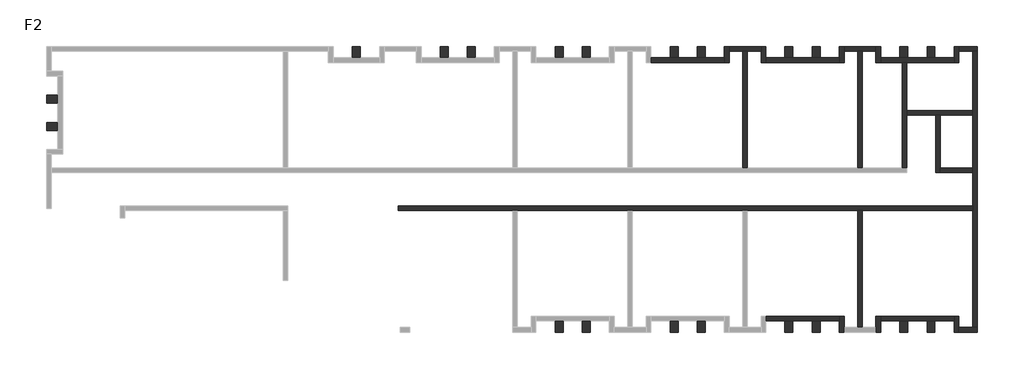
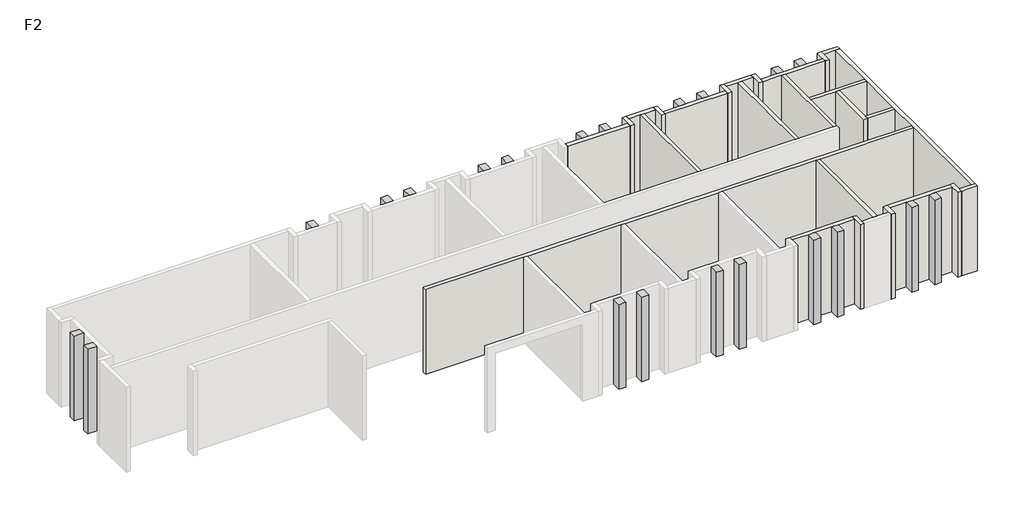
# One storey, part 2 of 2: 27 walls, 21 columns.
"""IFC4 building model written with IfcOpenShell, lengths in millimetres."""

from ifc_helpers import new_model, si_unit, frame, origin, place, context, project, spatial, polyline, outline, extrude, faceted_brep, element, save

model = new_model("IFC4")

# Units and contexts
model_context = context("Model", 3, world=origin())
ifc_project = project(units=[si_unit("LENGTHUNIT", "METRE", prefix="MILLI")], contexts=[model_context])

# Site, building, storey
site = spatial("IfcSite", under=ifc_project)
building = spatial("IfcBuilding", under=site)
storey = spatial("IfcBuildingStorey", under=building, Name="F2", Elevation=3600.0)

# Columns
placement = place(None, origin())
element("IfcColumn", 1, ObjectType="矩形建筑柱 : 500 x 1000 mm", at=placement, inside=storey, context=model_context, shape_type="SweptSolid", body=[
    extrude(outline(polyline([(-38741.7970835, -14069.0484842), (-38741.7970835, -13569.0484842), (-38041.7970835, -13569.0484842), (-38041.7970835, -14069.0484842), (-38741.7970835, -14069.0484842)])), frame((0.0, 0.0, 3600.0), z_axis=(0.0, 0.0, 1.0), x_axis=(1.0, 0.0, 0.0)), (0.0, 0.0, 1.0), 6600.0),
])
element("IfcColumn", 2, ObjectType="矩形建筑柱 : 500 x 1000 mm", at=placement, inside=storey, context=model_context, shape_type="SweptSolid", body=[
    extrude(outline(polyline([(-38741.7970835, -15769.0484842), (-38741.7970835, -15269.0484842), (-38041.7970835, -15269.0484842), (-38041.7970835, -15769.0484842), (-38741.7970835, -15769.0484842)])), frame((0.0, 0.0, 3600.0), z_axis=(0.0, 0.0, 1.0), x_axis=(1.0, 0.0, 0.0)), (0.0, 0.0, 1.0), 6600.0),
])
element("IfcColumn", 3, ObjectType="矩形建筑柱 : 500 x 1000 mm", at=placement, inside=storey, context=model_context, shape_type="SweptSolid", body=[
    extrude(outline(polyline([(14718.2029165, -10509.0484842), (15218.2029165, -10509.0484842), (15218.2029165, -11209.0484842), (14718.2029165, -11209.0484842), (14718.2029165, -10509.0484842)])), frame((0.0, 0.0, 3600.0), z_axis=(0.0, 0.0, 1.0), x_axis=(1.0, 0.0, 0.0)), (0.0, 0.0, 1.0), 6600.0),
])
element("IfcColumn", 4, ObjectType="矩形建筑柱 : 500 x 1000 mm", at=placement, inside=storey, context=model_context, shape_type="SweptSolid", body=[
    extrude(outline(polyline([(16418.2029165, -10509.0484842), (16918.2029165, -10509.0484842), (16918.2029165, -11209.0484842), (16418.2029165, -11209.0484842), (16418.2029165, -10509.0484842)])), frame((0.0, 0.0, 3600.0), z_axis=(0.0, 0.0, 1.0), x_axis=(1.0, 0.0, 0.0)), (0.0, 0.0, 1.0), 6600.0),
])
element("IfcColumn", 5, ObjectType="矩形建筑柱 : 500 x 1000 mm", at=placement, inside=storey, context=model_context, shape_type="SweptSolid", body=[
    extrude(outline(polyline([(7518.2029165, -10509.0484842), (8018.2029165, -10509.0484842), (8018.2029165, -11209.0484842), (7518.2029165, -11209.0484842), (7518.2029165, -10509.0484842)])), frame((0.0, 0.0, 3600.0), z_axis=(0.0, 0.0, 1.0), x_axis=(1.0, 0.0, 0.0)), (0.0, 0.0, 1.0), 6600.0),
])
element("IfcColumn", 6, ObjectType="矩形建筑柱 : 500 x 1000 mm", at=placement, inside=storey, context=model_context, shape_type="SweptSolid", body=[
    extrude(outline(polyline([(9218.2029165, -10509.0484842), (9718.2029165, -10509.0484842), (9718.2029165, -11209.0484842), (9218.2029165, -11209.0484842), (9218.2029165, -10509.0484842)])), frame((0.0, 0.0, 3600.0), z_axis=(0.0, 0.0, 1.0), x_axis=(1.0, 0.0, 0.0)), (0.0, 0.0, 1.0), 6600.0),
])
element("IfcColumn", 7, ObjectType="矩形建筑柱 : 500 x 1000 mm", at=placement, inside=storey, context=model_context, shape_type="SweptSolid", body=[
    extrude(outline(polyline([(318.2029165, -10509.0484842), (818.2029165, -10509.0484842), (818.2029165, -11209.0484842), (318.2029165, -11209.0484842), (318.2029165, -10509.0484842)])), frame((0.0, 0.0, 3600.0), z_axis=(0.0, 0.0, 1.0), x_axis=(1.0, 0.0, 0.0)), (0.0, 0.0, 1.0), 6600.0),
])
element("IfcColumn", 8, ObjectType="矩形建筑柱 : 500 x 1000 mm", at=placement, inside=storey, context=model_context, shape_type="SweptSolid", body=[
    extrude(outline(polyline([(2018.2029165, -10509.0484842), (2518.2029165, -10509.0484842), (2518.2029165, -11209.0484842), (2018.2029165, -11209.0484842), (2018.2029165, -10509.0484842)])), frame((0.0, 0.0, 3600.0), z_axis=(0.0, 0.0, 1.0), x_axis=(1.0, 0.0, 0.0)), (0.0, 0.0, 1.0), 6600.0),
])
element("IfcColumn", 9, ObjectType="矩形建筑柱 : 500 x 1000 mm", at=placement, inside=storey, context=model_context, shape_type="SweptSolid", body=[
    extrude(outline(polyline([(-6881.7970835, -10509.0484842), (-6381.7970835, -10509.0484842), (-6381.7970835, -11209.0484842), (-6881.7970835, -11209.0484842), (-6881.7970835, -10509.0484842)])), frame((0.0, 0.0, 3600.0), z_axis=(0.0, 0.0, 1.0), x_axis=(1.0, 0.0, 0.0)), (0.0, 0.0, 1.0), 6600.0),
])
element("IfcColumn", 10, ObjectType="矩形建筑柱 : 500 x 1000 mm", at=placement, inside=storey, context=model_context, shape_type="SweptSolid", body=[
    extrude(outline(polyline([(-5181.7970835, -10509.0484842), (-4681.7970835, -10509.0484842), (-4681.7970835, -11209.0484842), (-5181.7970835, -11209.0484842), (-5181.7970835, -10509.0484842)])), frame((0.0, 0.0, 3600.0), z_axis=(0.0, 0.0, 1.0), x_axis=(1.0, 0.0, 0.0)), (0.0, 0.0, 1.0), 6600.0),
])
element("IfcColumn", 11, ObjectType="矩形建筑柱 : 500 x 1000 mm", at=placement, inside=storey, context=model_context, shape_type="SweptSolid", body=[
    extrude(outline(polyline([(-14081.7970835, -10509.0484842), (-13581.7970835, -10509.0484842), (-13581.7970835, -11209.0484842), (-14081.7970835, -11209.0484842), (-14081.7970835, -10509.0484842)])), frame((0.0, 0.0, 3600.0), z_axis=(0.0, 0.0, 1.0), x_axis=(1.0, 0.0, 0.0)), (0.0, 0.0, 1.0), 6600.0),
])
element("IfcColumn", 12, ObjectType="矩形建筑柱 : 500 x 1000 mm", at=placement, inside=storey, context=model_context, shape_type="SweptSolid", body=[
    extrude(outline(polyline([(-12381.7970835, -10509.0484842), (-11881.7970835, -10509.0484842), (-11881.7970835, -11209.0484842), (-12381.7970835, -11209.0484842), (-12381.7970835, -10509.0484842)])), frame((0.0, 0.0, 3600.0), z_axis=(0.0, 0.0, 1.0), x_axis=(1.0, 0.0, 0.0)), (0.0, 0.0, 1.0), 6600.0),
])
element("IfcColumn", 13, ObjectType="矩形建筑柱 : 500 x 1000 mm", at=placement, inside=storey, context=model_context, shape_type="SweptSolid", body=[
    extrude(outline(polyline([(-19581.7970835, -10509.0484842), (-19081.7970835, -10509.0484842), (-19081.7970835, -11209.0484842), (-19581.7970835, -11209.0484842), (-19581.7970835, -10509.0484842)])), frame((0.0, 0.0, 3600.0), z_axis=(0.0, 0.0, 1.0), x_axis=(1.0, 0.0, 0.0)), (0.0, 0.0, 1.0), 6600.0),
])
element("IfcColumn", 14, ObjectType="矩形建筑柱 : 500 x 1000 mm", at=placement, inside=storey, context=model_context, shape_type="SweptSolid", body=[
    extrude(outline(polyline([(15218.2029165, -28429.0484842), (14718.2029165, -28429.0484842), (14718.2029165, -27729.0484842), (15218.2029165, -27729.0484842), (15218.2029165, -28429.0484842)])), frame((0.0, 0.0, 3600.0), z_axis=(0.0, 0.0, 1.0), x_axis=(1.0, 0.0, 0.0)), (0.0, 0.0, 1.0), 6600.0),
])
element("IfcColumn", 15, ObjectType="矩形建筑柱 : 500 x 1000 mm", at=placement, inside=storey, context=model_context, shape_type="SweptSolid", body=[
    extrude(outline(polyline([(16918.2029165, -28429.0484842), (16418.2029165, -28429.0484842), (16418.2029165, -27729.0484842), (16918.2029165, -27729.0484842), (16918.2029165, -28429.0484842)])), frame((0.0, 0.0, 3600.0), z_axis=(0.0, 0.0, 1.0), x_axis=(1.0, 0.0, 0.0)), (0.0, 0.0, 1.0), 6600.0),
])
element("IfcColumn", 16, ObjectType="矩形建筑柱 : 500 x 1000 mm", at=placement, inside=storey, context=model_context, shape_type="SweptSolid", body=[
    extrude(outline(polyline([(8018.2029165, -28429.0484842), (7518.2029165, -28429.0484842), (7518.2029165, -27729.0484842), (8018.2029165, -27729.0484842), (8018.2029165, -28429.0484842)])), frame((0.0, 0.0, 3600.0), z_axis=(0.0, 0.0, 1.0), x_axis=(1.0, 0.0, 0.0)), (0.0, 0.0, 1.0), 6600.0),
])
element("IfcColumn", 17, ObjectType="矩形建筑柱 : 500 x 1000 mm", at=placement, inside=storey, context=model_context, shape_type="SweptSolid", body=[
    extrude(outline(polyline([(9718.2029165, -28429.0484842), (9218.2029165, -28429.0484842), (9218.2029165, -27729.0484842), (9718.2029165, -27729.0484842), (9718.2029165, -28429.0484842)])), frame((0.0, 0.0, 3600.0), z_axis=(0.0, 0.0, 1.0), x_axis=(1.0, 0.0, 0.0)), (0.0, 0.0, 1.0), 6600.0),
])
element("IfcColumn", 18, ObjectType="矩形建筑柱 : 500 x 1000 mm", at=placement, inside=storey, context=model_context, shape_type="SweptSolid", body=[
    extrude(outline(polyline([(818.2029165, -28429.0484842), (318.2029165, -28429.0484842), (318.2029165, -27729.0484842), (818.2029165, -27729.0484842), (818.2029165, -28429.0484842)])), frame((0.0, 0.0, 3600.0), z_axis=(0.0, 0.0, 1.0), x_axis=(1.0, 0.0, 0.0)), (0.0, 0.0, 1.0), 6600.0),
])
element("IfcColumn", 19, ObjectType="矩形建筑柱 : 500 x 1000 mm", at=placement, inside=storey, context=model_context, shape_type="SweptSolid", body=[
    extrude(outline(polyline([(2518.2029165, -28429.0484842), (2018.2029165, -28429.0484842), (2018.2029165, -27729.0484842), (2518.2029165, -27729.0484842), (2518.2029165, -28429.0484842)])), frame((0.0, 0.0, 3600.0), z_axis=(0.0, 0.0, 1.0), x_axis=(1.0, 0.0, 0.0)), (0.0, 0.0, 1.0), 6600.0),
])
element("IfcColumn", 20, ObjectType="矩形建筑柱 : 500 x 1000 mm", at=placement, inside=storey, context=model_context, shape_type="SweptSolid", body=[
    extrude(outline(polyline([(-6381.7970835, -28429.0484842), (-6881.7970835, -28429.0484842), (-6881.7970835, -27729.0484842), (-6381.7970835, -27729.0484842), (-6381.7970835, -28429.0484842)])), frame((0.0, 0.0, 3600.0), z_axis=(0.0, 0.0, 1.0), x_axis=(1.0, 0.0, 0.0)), (0.0, 0.0, 1.0), 6600.0),
])
element("IfcColumn", 21, ObjectType="矩形建筑柱 : 500 x 1000 mm", at=placement, inside=storey, context=model_context, shape_type="SweptSolid", body=[
    extrude(outline(polyline([(-4681.7970835, -28429.0484842), (-5181.7970835, -28429.0484842), (-5181.7970835, -27729.0484842), (-4681.7970835, -27729.0484842), (-4681.7970835, -28429.0484842)])), frame((0.0, 0.0, 3600.0), z_axis=(0.0, 0.0, 1.0), x_axis=(1.0, 0.0, 0.0)), (0.0, 0.0, 1.0), 6600.0),
])

# Walls
element("IfcWall", 22, ObjectType="F2-F5-24CM-外牆", at=placement, inside=storey, context=model_context, shape_type="Brep", body=[
    faceted_brep([(19578.2029165, -28129.0484842, 3600.0), (19578.2029165, -10809.0484842, 3600.0), (19578.2029165, -10809.0484842, 10200.0), (19578.2029165, -28129.0484842, 10200.0), (19278.2029165, -28129.0484842, 3600.0), (19278.2029165, -28129.0484842, 10200.0), (19278.2029165, -20809.0484842, 10200.0), (19278.2029165, -20529.0484842, 10200.0), (19278.2029165, -18409.0484842, 10200.0), (19278.2029165, -18129.0484842, 10200.0), (19278.2029165, -14809.0484842, 10200.0), (19278.2029165, -14529.0484842, 10200.0), (19278.2029165, -10809.0484842, 10200.0), (19278.2029165, -10809.0484842, 3600.0), (19278.2029165, -14529.0484842, 3600.0), (19278.2029165, -14809.0484842, 3600.0), (19278.2029165, -18129.0484842, 3600.0), (19278.2029165, -18409.0484842, 3600.0), (19278.2029165, -20529.0484842, 3600.0), (19278.2029165, -20809.0484842, 3600.0)], [[[0, 1, 2, 3]], [[4, 5, 6, 7, 8, 9, 10, 11, 12, 13, 14, 15, 16, 17, 18, 19]], [[1, 0, 4, 19, 18, 17, 16, 15, 14, 13]], [[3, 2, 12, 11, 10, 9, 8, 7, 6, 5]], [[0, 3, 5, 4]], [[2, 1, 13, 12]]]),
])
element("IfcWall", 23, ObjectType="F2-F5-24CM-外牆", at=placement, inside=storey, context=model_context, shape_type="Brep", body=[
    faceted_brep([(19578.2029165, -28129.0484842, 3600.0), (19278.2029165, -28129.0484842, 3600.0), (18418.2029165, -28129.0484842, 3600.0), (18418.2029165, -28129.0484842, 10200.0), (19278.2029165, -28129.0484842, 10200.0), (19578.2029165, -28129.0484842, 10200.0), (19578.2029165, -28429.0484842, 3600.0), (19578.2029165, -28429.0484842, 10200.0), (18418.2029165, -28429.0484842, 10200.0), (18418.2029165, -28429.0484842, 3600.0)], [[[0, 1, 2, 3, 4, 5]], [[6, 7, 8, 9]], [[2, 1, 0, 6, 9]], [[5, 4, 3, 8, 7]], [[3, 2, 9, 8]], [[0, 5, 7, 6]]]),
])
element("IfcWall", 24, ObjectType="F2-F5-24CM-外牆", at=placement, inside=storey, context=model_context, shape_type="Brep", body=[
    faceted_brep([(13518.2029165, -11509.0484842, 3600.0), (14878.2029165, -11509.0484842, 3600.0), (15158.2029165, -11509.0484842, 3600.0), (18118.2029165, -11509.0484842, 3600.0), (18118.2029165, -11509.0484842, 10200.0), (15158.2029165, -11509.0484842, 10200.0), (14878.2029165, -11509.0484842, 10200.0), (13518.2029165, -11509.0484842, 10200.0), (13518.2029165, -11209.0484842, 3600.0), (13518.2029165, -11209.0484842, 10200.0), (14718.2029165, -11209.0484842, 10200.0), (15218.2029165, -11209.0484842, 10200.0), (16418.2029165, -11209.0484842, 10200.0), (16918.2029165, -11209.0484842, 10200.0), (18118.2029165, -11209.0484842, 10200.0), (18118.2029165, -11209.0484842, 3600.0), (16918.2029165, -11209.0484842, 3600.0), (16418.2029165, -11209.0484842, 3600.0), (15218.2029165, -11209.0484842, 3600.0), (14718.2029165, -11209.0484842, 3600.0)], [[[0, 1, 2, 3, 4, 5, 6, 7]], [[8, 9, 10, 11, 12, 13, 14, 15, 16, 17, 18, 19]], [[3, 2, 1, 0, 8, 19, 18, 17, 16, 15]], [[7, 6, 5, 4, 14, 13, 12, 11, 10, 9]], [[0, 7, 9, 8]], [[4, 3, 15, 14]]]),
])
element("IfcWall", 25, ObjectType="F2-F5-24CM-外牆", at=placement, inside=storey, context=model_context, shape_type="Brep", body=[
    faceted_brep([(13218.2029165, -10509.0484842, 3600.0), (13218.2029165, -10809.0484842, 3600.0), (13218.2029165, -11509.0484842, 3600.0), (13218.2029165, -11509.0484842, 10200.0), (13218.2029165, -10809.0484842, 10200.0), (13218.2029165, -10509.0484842, 10200.0), (13518.2029165, -10509.0484842, 3600.0), (13518.2029165, -10509.0484842, 10200.0), (13518.2029165, -11209.0484842, 10200.0), (13518.2029165, -11509.0484842, 10200.0), (13518.2029165, -11509.0484842, 3600.0), (13518.2029165, -11209.0484842, 3600.0)], [[[0, 1, 2, 3, 4, 5]], [[6, 7, 8, 9, 10, 11]], [[2, 1, 0, 6, 11, 10]], [[5, 4, 3, 9, 8, 7]], [[3, 2, 10, 9]], [[0, 5, 7, 6]]]),
])
element("IfcWall", 26, ObjectType="F2-F5-24CM-外牆", at=placement, inside=storey, context=model_context, shape_type="Brep", body=[
    faceted_brep([(18418.2029165, -11509.0484842, 3600.0), (18418.2029165, -10809.0484842, 3600.0), (18418.2029165, -10509.0484842, 3600.0), (18418.2029165, -10509.0484842, 10200.0), (18418.2029165, -10809.0484842, 10200.0), (18418.2029165, -11509.0484842, 10200.0), (18118.2029165, -11509.0484842, 3600.0), (18118.2029165, -11509.0484842, 10200.0), (18118.2029165, -11209.0484842, 10200.0), (18118.2029165, -10509.0484842, 10200.0), (18118.2029165, -10509.0484842, 3600.0), (18118.2029165, -11209.0484842, 3600.0)], [[[0, 1, 2, 3, 4, 5]], [[6, 7, 8, 9, 10, 11]], [[2, 1, 0, 6, 11, 10]], [[5, 4, 3, 9, 8, 7]], [[0, 5, 7, 6]], [[3, 2, 10, 9]]]),
])
element("IfcWall", 27, ObjectType="F2-F5-24CM-外牆", at=placement, inside=storey, context=model_context, shape_type="Brep", body=[
    faceted_brep([(18418.2029165, -10809.0484842, 3600.0), (19278.2029165, -10809.0484842, 3600.0), (19578.2029165, -10809.0484842, 3600.0), (19578.2029165, -10809.0484842, 10200.0), (19278.2029165, -10809.0484842, 10200.0), (18418.2029165, -10809.0484842, 10200.0), (18418.2029165, -10509.0484842, 3600.0), (18418.2029165, -10509.0484842, 10200.0), (19578.2029165, -10509.0484842, 10200.0), (19578.2029165, -10509.0484842, 3600.0)], [[[0, 1, 2, 3, 4, 5]], [[6, 7, 8, 9]], [[2, 1, 0, 6, 9]], [[5, 4, 3, 8, 7]], [[3, 2, 9, 8]], [[0, 5, 7, 6]]]),
])
element("IfcWall", 28, ObjectType="F2-F5-24CM-外牆", at=placement, inside=storey, context=model_context, shape_type="Brep", body=[
    faceted_brep([(6318.2029165, -11509.0484842, 3600.0), (10918.2029165, -11509.0484842, 3600.0), (10918.2029165, -11509.0484842, 10200.0), (6318.2029165, -11509.0484842, 10200.0), (6318.2029165, -11209.0484842, 3600.0), (6318.2029165, -11209.0484842, 10200.0), (7518.2029165, -11209.0484842, 10200.0), (8018.2029165, -11209.0484842, 10200.0), (9218.2029165, -11209.0484842, 10200.0), (9718.2029165, -11209.0484842, 10200.0), (10918.2029165, -11209.0484842, 10200.0), (10918.2029165, -11209.0484842, 3600.0), (9718.2029165, -11209.0484842, 3600.0), (9218.2029165, -11209.0484842, 3600.0), (8018.2029165, -11209.0484842, 3600.0), (7518.2029165, -11209.0484842, 3600.0)], [[[0, 1, 2, 3]], [[4, 5, 6, 7, 8, 9, 10, 11, 12, 13, 14, 15]], [[1, 0, 4, 15, 14, 13, 12, 11]], [[3, 2, 10, 9, 8, 7, 6, 5]], [[0, 3, 5, 4]], [[2, 1, 11, 10]]]),
])
element("IfcWall", 29, ObjectType="F2-F5-24CM-外牆", at=placement, inside=storey, context=model_context, shape_type="Brep", body=[
    faceted_brep([(6018.2029165, -10509.0484842, 3600.0), (6018.2029165, -10809.0484842, 3600.0), (6018.2029165, -11509.0484842, 3600.0), (6018.2029165, -11509.0484842, 10200.0), (6018.2029165, -10809.0484842, 10200.0), (6018.2029165, -10509.0484842, 10200.0), (6318.2029165, -10509.0484842, 3600.0), (6318.2029165, -10509.0484842, 10200.0), (6318.2029165, -11209.0484842, 10200.0), (6318.2029165, -11509.0484842, 10200.0), (6318.2029165, -11509.0484842, 3600.0), (6318.2029165, -11209.0484842, 3600.0)], [[[0, 1, 2, 3, 4, 5]], [[6, 7, 8, 9, 10, 11]], [[2, 1, 0, 6, 11, 10]], [[5, 4, 3, 9, 8, 7]], [[3, 2, 10, 9]], [[0, 5, 7, 6]]]),
])
element("IfcWall", 30, ObjectType="F2-F5-24CM-外牆", at=placement, inside=storey, context=model_context, shape_type="Brep", body=[
    faceted_brep([(11218.2029165, -11509.0484842, 3600.0), (11218.2029165, -10809.0484842, 3600.0), (11218.2029165, -10509.0484842, 3600.0), (11218.2029165, -10509.0484842, 10200.0), (11218.2029165, -10809.0484842, 10200.0), (11218.2029165, -11509.0484842, 10200.0), (10918.2029165, -11509.0484842, 3600.0), (10918.2029165, -11509.0484842, 10200.0), (10918.2029165, -11209.0484842, 10200.0), (10918.2029165, -10509.0484842, 10200.0), (10918.2029165, -10509.0484842, 3600.0), (10918.2029165, -11209.0484842, 3600.0)], [[[0, 1, 2, 3, 4, 5]], [[6, 7, 8, 9, 10, 11]], [[2, 1, 0, 6, 11, 10]], [[5, 4, 3, 9, 8, 7]], [[0, 5, 7, 6]], [[3, 2, 10, 9]]]),
])
element("IfcWall", 31, ObjectType="F2-F5-24CM-外牆", at=placement, inside=storey, context=model_context, shape_type="Brep", body=[
    faceted_brep([(-881.7970835, -11509.0484842, 3600.0), (3718.2029165, -11509.0484842, 3600.0), (3718.2029165, -11509.0484842, 10200.0), (-881.7970835, -11509.0484842, 10200.0), (-881.7970835, -11209.0484842, 3600.0), (-881.7970835, -11209.0484842, 10200.0), (318.2029165, -11209.0484842, 10200.0), (818.2029165, -11209.0484842, 10200.0), (2018.2029165, -11209.0484842, 10200.0), (2518.2029165, -11209.0484842, 10200.0), (3718.2029165, -11209.0484842, 10200.0), (3718.2029165, -11209.0484842, 3600.0), (2518.2029165, -11209.0484842, 3600.0), (2018.2029165, -11209.0484842, 3600.0), (818.2029165, -11209.0484842, 3600.0), (318.2029165, -11209.0484842, 3600.0)], [[[0, 1, 2, 3]], [[4, 5, 6, 7, 8, 9, 10, 11, 12, 13, 14, 15]], [[1, 0, 4, 15, 14, 13, 12, 11]], [[3, 2, 10, 9, 8, 7, 6, 5]], [[0, 3, 5, 4]], [[2, 1, 11, 10]]]),
])
element("IfcWall", 32, ObjectType="F2-F5-24CM-外牆", at=placement, inside=storey, context=model_context, shape_type="Brep", body=[
    faceted_brep([(4018.2029165, -11509.0484842, 3600.0), (4018.2029165, -10809.0484842, 3600.0), (4018.2029165, -10509.0484842, 3600.0), (4018.2029165, -10509.0484842, 10200.0), (4018.2029165, -10809.0484842, 10200.0), (4018.2029165, -11509.0484842, 10200.0), (3718.2029165, -11509.0484842, 3600.0), (3718.2029165, -11509.0484842, 10200.0), (3718.2029165, -11209.0484842, 10200.0), (3718.2029165, -10509.0484842, 10200.0), (3718.2029165, -10509.0484842, 3600.0), (3718.2029165, -11209.0484842, 3600.0)], [[[0, 1, 2, 3, 4, 5]], [[6, 7, 8, 9, 10, 11]], [[2, 1, 0, 6, 11, 10]], [[5, 4, 3, 9, 8, 7]], [[0, 5, 7, 6]], [[3, 2, 10, 9]]]),
])
element("IfcWall", 33, ObjectType="F2-F5-24CM-外牆", at=placement, inside=storey, context=model_context, shape_type="Brep", body=[
    faceted_brep([(11218.2029165, -10809.0484842, 3600.0), (12078.2029165, -10809.0484842, 3600.0), (12358.2029165, -10809.0484842, 3600.0), (13218.2029165, -10809.0484842, 3600.0), (13218.2029165, -10809.0484842, 10200.0), (12358.2029165, -10809.0484842, 10200.0), (12078.2029165, -10809.0484842, 10200.0), (11218.2029165, -10809.0484842, 10200.0), (11218.2029165, -10509.0484842, 3600.0), (11218.2029165, -10509.0484842, 10200.0), (13218.2029165, -10509.0484842, 10200.0), (13218.2029165, -10509.0484842, 3600.0)], [[[0, 1, 2, 3, 4, 5, 6, 7]], [[8, 9, 10, 11]], [[3, 2, 1, 0, 8, 11]], [[7, 6, 5, 4, 10, 9]], [[4, 3, 11, 10]], [[0, 7, 9, 8]]]),
])
element("IfcWall", 34, ObjectType="F2-F5-24CM-外牆", at=placement, inside=storey, context=model_context, shape_type="Brep", body=[
    faceted_brep([(4018.2029165, -10809.0484842, 3600.0), (4878.2029165, -10809.0484842, 3600.0), (5158.2029165, -10809.0484842, 3600.0), (6018.2029165, -10809.0484842, 3600.0), (6018.2029165, -10809.0484842, 10200.0), (5158.2029165, -10809.0484842, 10200.0), (4878.2029165, -10809.0484842, 10200.0), (4018.2029165, -10809.0484842, 10200.0), (4018.2029165, -10509.0484842, 3600.0), (4018.2029165, -10509.0484842, 10200.0), (6018.2029165, -10509.0484842, 10200.0), (6018.2029165, -10509.0484842, 3600.0)], [[[0, 1, 2, 3, 4, 5, 6, 7]], [[8, 9, 10, 11]], [[3, 2, 1, 0, 8, 11]], [[7, 6, 5, 4, 10, 9]], [[4, 3, 11, 10]], [[0, 7, 9, 8]]]),
])
element("IfcWall", 35, ObjectType="F2-F5-24CM-外牆", at=placement, inside=storey, context=model_context, shape_type="Brep", body=[
    faceted_brep([(13518.2029165, -27729.0484842, 3600.0), (14718.2029165, -27729.0484842, 3600.0), (15218.2029165, -27729.0484842, 3600.0), (16418.2029165, -27729.0484842, 3600.0), (16918.2029165, -27729.0484842, 3600.0), (18118.2029165, -27729.0484842, 3600.0), (18118.2029165, -27729.0484842, 10200.0), (16918.2029165, -27729.0484842, 10200.0), (16418.2029165, -27729.0484842, 10200.0), (15218.2029165, -27729.0484842, 10200.0), (14718.2029165, -27729.0484842, 10200.0), (13518.2029165, -27729.0484842, 10200.0), (13518.2029165, -27429.0484842, 3600.0), (13518.2029165, -27429.0484842, 10200.0), (18118.2029165, -27429.0484842, 10200.0), (18118.2029165, -27429.0484842, 3600.0)], [[[0, 1, 2, 3, 4, 5, 6, 7, 8, 9, 10, 11]], [[12, 13, 14, 15]], [[5, 4, 3, 2, 1, 0, 12, 15]], [[11, 10, 9, 8, 7, 6, 14, 13]], [[0, 11, 13, 12]], [[6, 5, 15, 14]]]),
])
element("IfcWall", 36, ObjectType="F2-F5-24CM-外牆", at=placement, inside=storey, context=model_context, shape_type="Brep", body=[
    faceted_brep([(13518.2029165, -28429.0484842, 3600.0), (13518.2029165, -27729.0484842, 3600.0), (13518.2029165, -27429.0484842, 3600.0), (13518.2029165, -27429.0484842, 10200.0), (13518.2029165, -27729.0484842, 10200.0), (13518.2029165, -28429.0484842, 10200.0), (13218.2029165, -28429.0484842, 3600.0), (13218.2029165, -28429.0484842, 10200.0), (13218.2029165, -28129.0484842, 10200.0), (13218.2029165, -27429.0484842, 10200.0), (13218.2029165, -27429.0484842, 3600.0), (13218.2029165, -28129.0484842, 3600.0)], [[[0, 1, 2, 3, 4, 5]], [[6, 7, 8, 9, 10, 11]], [[2, 1, 0, 6, 11, 10]], [[5, 4, 3, 9, 8, 7]], [[3, 2, 10, 9]], [[0, 5, 7, 6]]]),
])
element("IfcWall", 37, ObjectType="F2-F5-24CM-外牆", at=placement, inside=storey, context=model_context, shape_type="Brep", body=[
    faceted_brep([(18118.2029165, -27429.0484842, 3600.0), (18118.2029165, -27729.0484842, 3600.0), (18118.2029165, -28429.0484842, 3600.0), (18118.2029165, -28429.0484842, 10200.0), (18118.2029165, -27729.0484842, 10200.0), (18118.2029165, -27429.0484842, 10200.0), (18418.2029165, -27429.0484842, 3600.0), (18418.2029165, -27429.0484842, 10200.0), (18418.2029165, -28129.0484842, 10200.0), (18418.2029165, -28429.0484842, 10200.0), (18418.2029165, -28429.0484842, 3600.0), (18418.2029165, -28129.0484842, 3600.0)], [[[0, 1, 2, 3, 4, 5]], [[6, 7, 8, 9, 10, 11]], [[2, 1, 0, 6, 11, 10]], [[5, 4, 3, 9, 8, 7]], [[0, 5, 7, 6]], [[3, 2, 10, 9]]]),
])
element("IfcWall", 38, ObjectType="F2-F5-24CM-外牆", at=placement, inside=storey, context=model_context, shape_type="Brep", body=[
    faceted_brep([(6318.2029165, -27729.0484842, 3600.0), (7518.2029165, -27729.0484842, 3600.0), (8018.2029165, -27729.0484842, 3600.0), (9218.2029165, -27729.0484842, 3600.0), (9718.2029165, -27729.0484842, 3600.0), (10918.2029165, -27729.0484842, 3600.0), (10918.2029165, -27729.0484842, 10200.0), (9718.2029165, -27729.0484842, 10200.0), (9218.2029165, -27729.0484842, 10200.0), (8018.2029165, -27729.0484842, 10200.0), (7518.2029165, -27729.0484842, 10200.0), (6318.2029165, -27729.0484842, 10200.0), (6318.2029165, -27429.0484842, 3600.0), (6318.2029165, -27429.0484842, 10200.0), (10918.2029165, -27429.0484842, 10200.0), (10918.2029165, -27429.0484842, 3600.0)], [[[0, 1, 2, 3, 4, 5, 6, 7, 8, 9, 10, 11]], [[12, 13, 14, 15]], [[5, 4, 3, 2, 1, 0, 12, 15]], [[11, 10, 9, 8, 7, 6, 14, 13]], [[0, 11, 13, 12]], [[6, 5, 15, 14]]]),
])
element("IfcWall", 39, ObjectType="F2-F5-24CM-外牆", at=placement, inside=storey, context=model_context, shape_type="Brep", body=[
    faceted_brep([(10918.2029165, -27429.0484842, 3600.0), (10918.2029165, -27729.0484842, 3600.0), (10918.2029165, -28429.0484842, 3600.0), (10918.2029165, -28429.0484842, 10200.0), (10918.2029165, -27729.0484842, 10200.0), (10918.2029165, -27429.0484842, 10200.0), (11218.2029165, -27429.0484842, 3600.0), (11218.2029165, -27429.0484842, 10200.0), (11218.2029165, -28129.0484842, 10200.0), (11218.2029165, -28429.0484842, 10200.0), (11218.2029165, -28429.0484842, 3600.0), (11218.2029165, -28129.0484842, 3600.0)], [[[0, 1, 2, 3, 4, 5]], [[6, 7, 8, 9, 10, 11]], [[2, 1, 0, 6, 11, 10]], [[5, 4, 3, 9, 8, 7]], [[0, 5, 7, 6]], [[3, 2, 10, 9]]]),
])
element("IfcWall", 40, ObjectType="辦公室-24cm-內牆", at=placement, inside=storey, context=model_context, shape_type="Brep", body=[
    faceted_brep([(15158.2029165, -18129.0484842, 3600.0), (15158.2029165, -14809.0484842, 3600.0), (15158.2029165, -14529.0484842, 3600.0), (15158.2029165, -11509.0484842, 3600.0), (15158.2029165, -11509.0484842, 10200.0), (15158.2029165, -14529.0484842, 10200.0), (15158.2029165, -14809.0484842, 10200.0), (15158.2029165, -18129.0484842, 10200.0), (14878.2029165, -18129.0484842, 3600.0), (14878.2029165, -18129.0484842, 10200.0), (14878.2029165, -11509.0484842, 10200.0), (14878.2029165, -11509.0484842, 3600.0)], [[[0, 1, 2, 3, 4, 5, 6, 7]], [[8, 9, 10, 11]], [[3, 2, 1, 0, 8, 11]], [[7, 6, 5, 4, 10, 9]], [[4, 3, 11, 10]], [[0, 7, 9, 8]]]),
])
element("IfcWall", 41, ObjectType="辦公室-24cm-內牆", at=placement, inside=storey, context=model_context, shape_type="Brep", body=[
    faceted_brep([(-16721.7970835, -20809.0484842, 3600.0), (-9521.7970835, -20809.0484842, 3600.0), (-9241.7970835, -20809.0484842, 3600.0), (-2321.7970835, -20809.0484842, 3600.0), (-2041.7970835, -20809.0484842, 3600.0), (4883.2029165, -20809.0484842, 3600.0), (5163.2029165, -20809.0484842, 3600.0), (12078.2029165, -20809.0484842, 3600.0), (12358.2029165, -20809.0484842, 3600.0), (19278.2029165, -20809.0484842, 3600.0), (19278.2029165, -20809.0484842, 10200.0), (12358.2029165, -20809.0484842, 10200.0), (12078.2029165, -20809.0484842, 10200.0), (5163.2029165, -20809.0484842, 10200.0), (4883.2029165, -20809.0484842, 10200.0), (-2041.7970835, -20809.0484842, 10200.0), (-2321.7970835, -20809.0484842, 10200.0), (-9241.7970835, -20809.0484842, 10200.0), (-9521.7970835, -20809.0484842, 10200.0), (-16441.7970835, -20809.0484842, 10200.0), (-16721.7970835, -20809.0484842, 10200.0), (-16721.7970835, -20809.0484842, 6600.0), (-16721.7970835, -20529.0484842, 3600.0), (-16721.7970835, -20529.0484842, 10200.0), (19278.2029165, -20529.0484842, 10200.0), (19278.2029165, -20529.0484842, 3600.0)], [[[0, 1, 2, 3, 4, 5, 6, 7, 8, 9, 10, 11, 12, 13, 14, 15, 16, 17, 18, 19, 20, 21]], [[22, 23, 24, 25]], [[9, 8, 7, 6, 5, 4, 3, 2, 1, 0, 22, 25]], [[20, 19, 18, 17, 16, 15, 14, 13, 12, 11, 10, 24, 23]], [[10, 9, 25, 24]], [[0, 21, 20, 23, 22]]]),
])
element("IfcWall", 42, ObjectType="辦公室-24cm-內牆", at=placement, inside=storey, context=model_context, shape_type="SweptSolid", body=[
    extrude(outline(polyline([(12078.2029165, -28129.0484842), (12078.2029165, -20809.0484842), (12358.2029165, -20809.0484842), (12358.2029165, -28129.0484842), (12078.2029165, -28129.0484842)])), frame((0.0, 0.0, 3600.0), z_axis=(0.0, 0.0, 1.0), x_axis=(1.0, 0.0, 0.0)), (0.0, 0.0, 1.0), 6600.0),
])
element("IfcWall", 43, ObjectType="辦公室-24cm-內牆", at=placement, inside=storey, context=model_context, shape_type="SweptSolid", body=[
    extrude(outline(polyline([(12078.2029165, -18129.0484842), (12078.2029165, -10809.0484842), (12358.2029165, -10809.0484842), (12358.2029165, -18129.0484842), (12078.2029165, -18129.0484842)])), frame((0.0, 0.0, 3600.0), z_axis=(0.0, 0.0, 1.0), x_axis=(1.0, 0.0, 0.0)), (0.0, 0.0, 1.0), 6600.0),
])
element("IfcWall", 44, ObjectType="辦公室-24cm-內牆", at=placement, inside=storey, context=model_context, shape_type="SweptSolid", body=[
    extrude(outline(polyline([(4878.2029165, -18129.0484842), (4878.2029165, -10809.0484842), (5158.2029165, -10809.0484842), (5158.2029165, -18129.0484842), (4878.2029165, -18129.0484842)])), frame((0.0, 0.0, 3600.0), z_axis=(0.0, 0.0, 1.0), x_axis=(1.0, 0.0, 0.0)), (0.0, 0.0, 1.0), 6600.0),
])
element("IfcWall", 45, ObjectType="辦公室-24cm-內牆", at=placement, inside=storey, context=model_context, shape_type="Brep", body=[
    faceted_brep([(15158.2029165, -18129.0484842, 3600.0), (15158.2029165, -14809.0484842, 3600.0), (15158.2029165, -14529.0484842, 3600.0), (15158.2029165, -11509.0484842, 3600.0), (15158.2029165, -11509.0484842, 10200.0), (15158.2029165, -14529.0484842, 10200.0), (15158.2029165, -14809.0484842, 10200.0), (15158.2029165, -18129.0484842, 10200.0), (14878.2029165, -18129.0484842, 3600.0), (14878.2029165, -18129.0484842, 10200.0), (14878.2029165, -11509.0484842, 10200.0), (14878.2029165, -11509.0484842, 3600.0)], [[[0, 1, 2, 3, 4, 5, 6, 7]], [[8, 9, 10, 11]], [[3, 2, 1, 0, 8, 11]], [[7, 6, 5, 4, 10, 9]], [[0, 7, 9, 8]], [[4, 3, 11, 10]]]),
])
element("IfcWall", 46, ObjectType="辦公室-24cm-內牆", at=placement, inside=storey, context=model_context, shape_type="Brep", body=[
    faceted_brep([(15158.2029165, -14809.0484842, 3600.0), (16978.2029165, -14809.0484842, 3600.0), (17258.2029165, -14809.0484842, 3600.0), (19278.2029165, -14809.0484842, 3600.0), (19278.2029165, -14809.0484842, 10200.0), (17258.2029165, -14809.0484842, 10200.0), (16978.2029165, -14809.0484842, 10200.0), (15158.2029165, -14809.0484842, 10200.0), (15158.2029165, -14529.0484842, 3600.0), (15158.2029165, -14529.0484842, 10200.0), (19278.2029165, -14529.0484842, 10200.0), (19278.2029165, -14529.0484842, 3600.0)], [[[0, 1, 2, 3, 4, 5, 6, 7]], [[8, 9, 10, 11]], [[3, 2, 1, 0, 8, 11]], [[7, 6, 5, 4, 10, 9]], [[0, 7, 9, 8]], [[4, 3, 11, 10]]]),
])
element("IfcWall", 47, ObjectType="辦公室-24cm-內牆", at=placement, inside=storey, context=model_context, shape_type="Brep", body=[
    faceted_brep([(16978.2029165, -14809.0484842, 3600.0), (16978.2029165, -18409.0484842, 3600.0), (16978.2029165, -18409.0484842, 10200.0), (16978.2029165, -14809.0484842, 10200.0), (17258.2029165, -14809.0484842, 3600.0), (17258.2029165, -14809.0484842, 10200.0), (17258.2029165, -18129.0484842, 10200.0), (17258.2029165, -18409.0484842, 10200.0), (17258.2029165, -18409.0484842, 3600.0), (17258.2029165, -18129.0484842, 3600.0)], [[[0, 1, 2, 3]], [[4, 5, 6, 7, 8, 9]], [[1, 0, 4, 9, 8]], [[3, 2, 7, 6, 5]], [[0, 3, 5, 4]], [[2, 1, 8, 7]]]),
])
element("IfcWall", 48, ObjectType="辦公室-24cm-內牆", at=placement, inside=storey, context=model_context, shape_type="SweptSolid", body=[
    extrude(outline(polyline([(19278.2029165, -18409.0484842), (17258.2029165, -18409.0484842), (17258.2029165, -18129.0484842), (19278.2029165, -18129.0484842), (19278.2029165, -18409.0484842)])), frame((0.0, 0.0, 3600.0), z_axis=(0.0, 0.0, 1.0), x_axis=(1.0, 0.0, 0.0)), (0.0, 0.0, 1.0), 6600.0),
])

save(model, "model.ifc")
